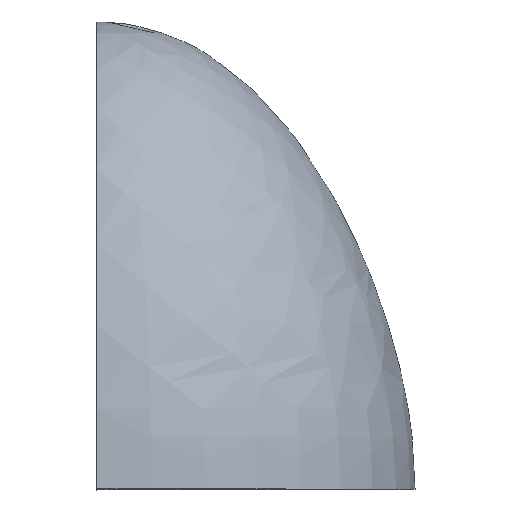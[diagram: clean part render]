
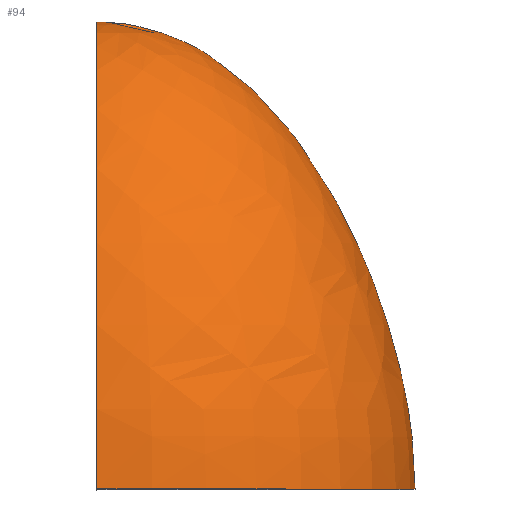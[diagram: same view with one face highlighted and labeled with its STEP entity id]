
A CAD part, top view. The second image highlights one B-rep face of the part: STEP entity #94.
In plain terms, the highlighted face is a revolution surface.
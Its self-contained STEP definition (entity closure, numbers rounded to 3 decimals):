
#52=CARTESIAN_POINT('Control Point',(0.,0.,81.)) ;
#53=CARTESIAN_POINT('Control Point',(0.,28.79,81.)) ;
#54=CARTESIAN_POINT('Control Point',(0.,62.139,71.546)) ;
#55=CARTESIAN_POINT('Control Point',(0.,100.046,52.639)) ;
#56=CARTESIAN_POINT('Control Point',(0.,119.,28.79)) ;
#57=CARTESIAN_POINT('Control Point',(0.,119.,0.)) ;
#58=CARTESIAN_POINT('Axis1P Location',(0.,0.,0.)) ;
#63=CARTESIAN_POINT('Control Point',(0.,0.,-81.)) ;
#64=CARTESIAN_POINT('Control Point',(0.,28.79,-81.)) ;
#65=CARTESIAN_POINT('Control Point',(0.,62.139,-71.546)) ;
#66=CARTESIAN_POINT('Control Point',(0.,100.046,-52.639)) ;
#67=CARTESIAN_POINT('Control Point',(0.,119.,-28.79)) ;
#68=CARTESIAN_POINT('Control Point',(0.,119.,0.)) ;
#69=CARTESIAN_POINT('Vertex',(0.,0.,-81.)) ;
#71=CARTESIAN_POINT('Vertex',(0.,119.,0.)) ;
#75=CARTESIAN_POINT('Control Point',(0.,0.,81.)) ;
#76=CARTESIAN_POINT('Control Point',(0.,28.79,81.)) ;
#77=CARTESIAN_POINT('Control Point',(0.,62.139,71.546)) ;
#78=CARTESIAN_POINT('Control Point',(0.,100.046,52.639)) ;
#79=CARTESIAN_POINT('Control Point',(0.,119.,28.79)) ;
#80=CARTESIAN_POINT('Control Point',(0.,119.,0.)) ;
#81=CARTESIAN_POINT('Vertex',(0.,0.,81.)) ;
#84=CARTESIAN_POINT('Axis2P3D Location',(0.,0.,0.)) ;
#59=DIRECTION('Axis1P Direction',(0.,1.,0.)) ;
#85=DIRECTION('Axis2P3D Direction',(0.,1.,0.)) ;
#86=AXIS2_PLACEMENT_3D('Circle Axis2P3D',#84,#85,$) ;
#90=ORIENTED_EDGE('',*,*,#73,.T.) ;
#91=ORIENTED_EDGE('',*,*,#83,.F.) ;
#92=ORIENTED_EDGE('',*,*,#88,.T.) ;
#94=ADVANCED_FACE('PartBody',(#93),#61,.T.) ;
#60=AXIS1_PLACEMENT('Revolution Surface Axis1P',#58,#59) ;
#51=B_SPLINE_CURVE_WITH_KNOTS('',5,(#52,#53,#54,#55,#56,#57),.UNSPECIFIED.,.F.,.U.,(6,6),(0.,143.951),.UNSPECIFIED.) ;
#62=B_SPLINE_CURVE_WITH_KNOTS('',5,(#63,#64,#65,#66,#67,#68),.UNSPECIFIED.,.F.,.U.,(6,6),(0.,143.951),.UNSPECIFIED.) ;
#74=B_SPLINE_CURVE_WITH_KNOTS('',5,(#75,#76,#77,#78,#79,#80),.UNSPECIFIED.,.F.,.U.,(6,6),(0.,143.951),.UNSPECIFIED.) ;
#87=CIRCLE('generated circle',#86,81.) ;
#73=EDGE_CURVE('',#70,#72,#62,.T.) ;
#83=EDGE_CURVE('',#82,#72,#74,.T.) ;
#88=EDGE_CURVE('',#82,#70,#87,.T.) ;
#89=EDGE_LOOP('',(#90,#91,#92)) ;
#93=FACE_OUTER_BOUND('',#89,.T.) ;
#61=SURFACE_OF_REVOLUTION('Surface of Revolution',#51,#60) ;
#70=VERTEX_POINT('',#69) ;
#72=VERTEX_POINT('',#71) ;
#82=VERTEX_POINT('',#81) ;
